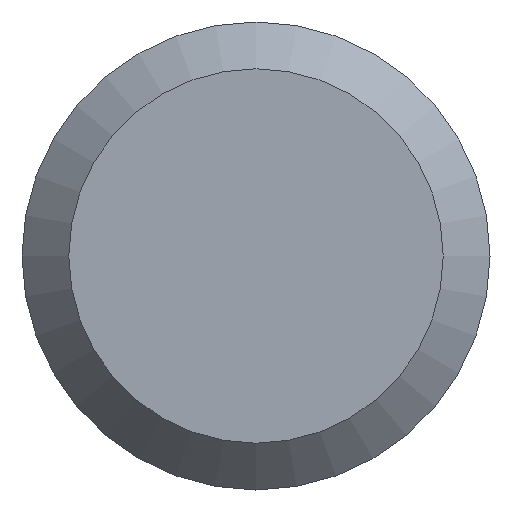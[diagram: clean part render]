
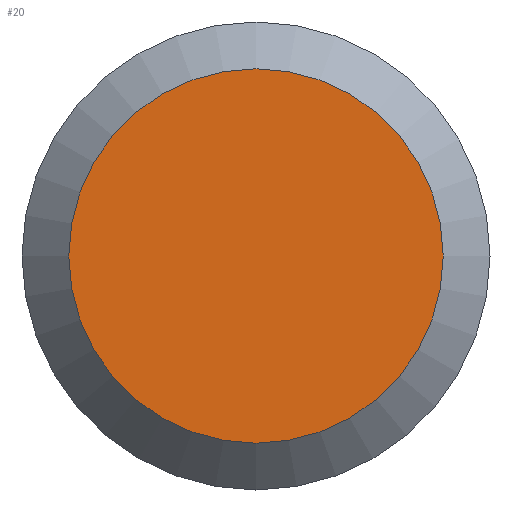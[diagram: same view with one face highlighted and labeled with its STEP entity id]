
A CAD part, left-side view. The second image highlights one B-rep face of the part: STEP entity #20.
In plain terms, the highlighted planar face has unit normal (-1, 0, 0).
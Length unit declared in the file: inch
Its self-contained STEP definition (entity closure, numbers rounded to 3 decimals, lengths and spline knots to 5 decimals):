
#6 = PLANE ( 'NONE',  #27 ) ;
#20 = ADVANCED_FACE ( 'NONE', ( #78 ), #6, .F. ) ;
#27 = AXIS2_PLACEMENT_3D ( 'NONE', #79, #121, #80 ) ;
#37 = EDGE_CURVE ( 'NONE', #180, #180, #198, .T. ) ;
#56 = CARTESIAN_POINT ( 'NONE',  ( 0., 0., 0. ) ) ;
#60 = ORIENTED_EDGE ( 'NONE', *, *, #37, .T. ) ;
#78 = FACE_OUTER_BOUND ( 'NONE', #137, .T. ) ;
#79 = CARTESIAN_POINT ( 'NONE',  ( 0., 0.0555, 0. ) ) ;
#80 = DIRECTION ( 'NONE',  ( 0., 0., -1. ) ) ;
#121 = DIRECTION ( 'NONE',  ( 1., 0., 0. ) ) ;
#125 = CARTESIAN_POINT ( 'NONE',  ( 0., 0., -0.0444 ) ) ;
#126 = DIRECTION ( 'NONE',  ( -1., 0., 0. ) ) ;
#137 = EDGE_LOOP ( 'NONE', ( #60 ) ) ;
#155 = DIRECTION ( 'NONE',  ( 0., 0., -1. ) ) ;
#180 = VERTEX_POINT ( 'NONE', #125 ) ;
#198 = CIRCLE ( 'NONE', #220, 0.0444 ) ;
#220 = AXIS2_PLACEMENT_3D ( 'NONE', #56, #126, #155 ) ;
